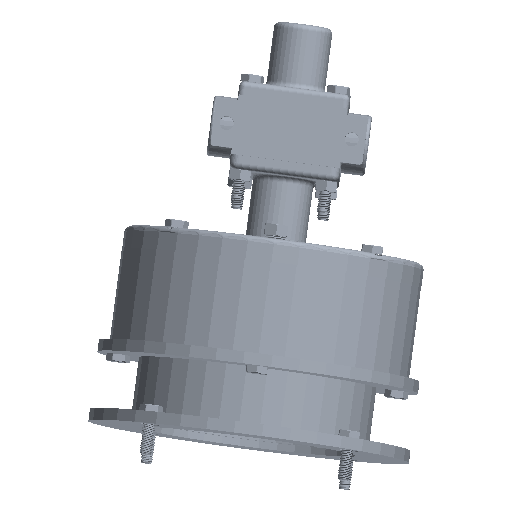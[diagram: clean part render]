
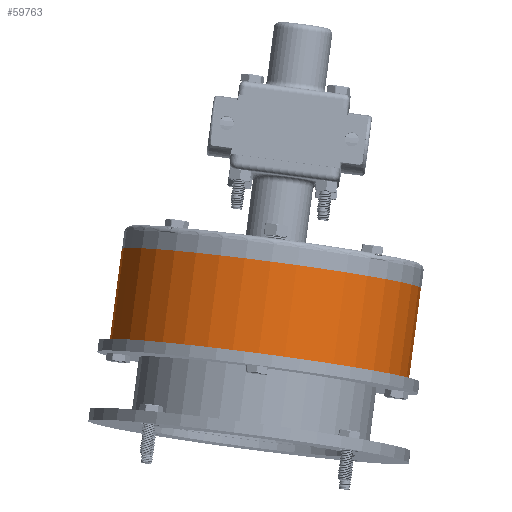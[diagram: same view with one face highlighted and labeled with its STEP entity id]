
A CAD part, front view. The second image highlights one B-rep face of the part: STEP entity #59763.
In plain terms, the highlighted cylindrical face has radius 79.756 mm (diameter 159.512 mm), a partial arc.
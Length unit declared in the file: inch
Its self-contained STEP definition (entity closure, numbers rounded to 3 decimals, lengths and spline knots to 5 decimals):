
#10448 = CARTESIAN_POINT ( 'NONE',  ( 11.96183, 93.48522, 15.7441 ) ) ;
#20376 = DIRECTION ( 'NONE',  ( -0.13, -0.046, -0.99 ) ) ;
#20391 = EDGE_CURVE ( 'NONE', #164012, #148013, #214127, .T. ) ;
#36964 = FACE_OUTER_BOUND ( 'NONE', #105349, .T. ) ;
#46268 = CIRCLE ( 'NONE', #85042, 3.14 ) ;
#48333 = AXIS2_PLACEMENT_3D ( 'NONE', #104304, #20376, #140763 ) ;
#49611 = ORIENTED_EDGE ( 'NONE', *, *, #141276, .T. ) ;
#50293 = CARTESIAN_POINT ( 'NONE',  ( 5.48361, 93.45923, 14.63848 ) ) ;
#54673 = ORIENTED_EDGE ( 'NONE', *, *, #98265, .T. ) ;
#59763 = ADVANCED_FACE ( 'NONE', ( #36964 ), #121971, .T. ) ;
#62573 = DIRECTION ( 'NONE',  ( -0.13, -0.046, -0.99 ) ) ;
#65935 = EDGE_CURVE ( 'NONE', #69276, #164012, #71090, .T. ) ;
#68579 = DIRECTION ( 'NONE',  ( 0.13, 0.046, 0.99 ) ) ;
#69276 = VERTEX_POINT ( 'NONE', #88529 ) ;
#71090 = CIRCLE ( 'NONE', #145216, 3.14 ) ;
#85042 = AXIS2_PLACEMENT_3D ( 'NONE', #103880, #68579, #173531 ) ;
#88529 = CARTESIAN_POINT ( 'NONE',  ( 5.73499, 93.54864, 16.55702 ) ) ;
#94191 = VECTOR ( 'NONE', #192072, 39.37008 ) ;
#97268 = VECTOR ( 'NONE', #62573, 39.37008 ) ;
#98265 = EDGE_CURVE ( 'NONE', #188861, #148013, #46268, .T. ) ;
#102586 = ORIENTED_EDGE ( 'NONE', *, *, #65935, .F. ) ;
#103880 = CARTESIAN_POINT ( 'NONE',  ( 8.59704, 93.42752, 14.23202 ) ) ;
#104304 = CARTESIAN_POINT ( 'NONE',  ( 8.84841, 93.51693, 16.15056 ) ) ;
#105349 = EDGE_LOOP ( 'NONE', ( #130237, #102586, #49611, #54673 ) ) ;
#107385 = DIRECTION ( 'NONE',  ( 0.992, -0.01, -0.129 ) ) ;
#121971 = CYLINDRICAL_SURFACE ( 'NONE', #48333, 3.14 ) ;
#123952 = DIRECTION ( 'NONE',  ( 0.13, 0.046, 0.99 ) ) ;
#130237 = ORIENTED_EDGE ( 'NONE', *, *, #20391, .F. ) ;
#140763 = DIRECTION ( 'NONE',  ( -0.992, 0.01, 0.129 ) ) ;
#141276 = EDGE_CURVE ( 'NONE', #69276, #188861, #209622, .T. ) ;
#143828 = CARTESIAN_POINT ( 'NONE',  ( 8.84841, 93.51693, 16.15056 ) ) ;
#145216 = AXIS2_PLACEMENT_3D ( 'NONE', #143828, #123952, #107385 ) ;
#148013 = VERTEX_POINT ( 'NONE', #216568 ) ;
#162210 = CARTESIAN_POINT ( 'NONE',  ( 11.96183, 93.48522, 15.7441 ) ) ;
#164012 = VERTEX_POINT ( 'NONE', #10448 ) ;
#173531 = DIRECTION ( 'NONE',  ( 0.992, -0.01, -0.129 ) ) ;
#188861 = VERTEX_POINT ( 'NONE', #50293 ) ;
#192072 = DIRECTION ( 'NONE',  ( -0.13, -0.046, -0.99 ) ) ;
#209622 = LINE ( 'NONE', #212877, #97268 ) ;
#212877 = CARTESIAN_POINT ( 'NONE',  ( 5.73499, 93.54864, 16.55702 ) ) ;
#214127 = LINE ( 'NONE', #162210, #94191 ) ;
#216568 = CARTESIAN_POINT ( 'NONE',  ( 11.71046, 93.39581, 13.82556 ) ) ;
